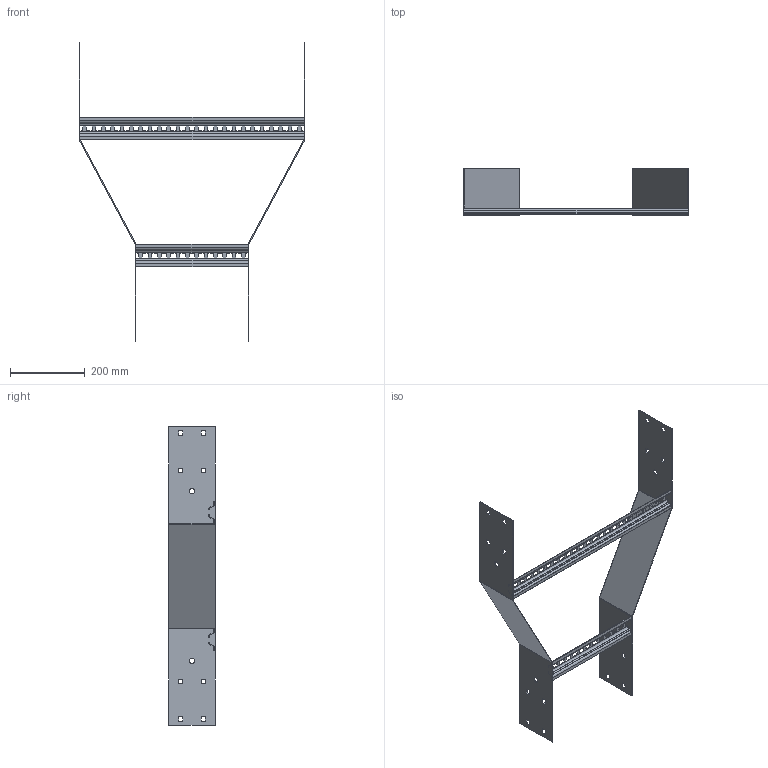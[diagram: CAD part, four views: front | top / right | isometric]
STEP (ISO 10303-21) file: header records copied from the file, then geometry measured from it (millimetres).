
FILE_DESCRIPTION (( 'STEP AP203' ), '1' );
FILE_NAME ('N3 SR 600300.STEP', '2022-09-19T05:42:08', ( '' ), ( '' ), 'SwSTEP 2.0', 'SolidWorks 2021', '' );
FILE_SCHEMA (( 'CONFIG_CONTROL_DESIGN' ));
Length unit declared in the file: millimetre
Products named in the file (4): Ladder Rung_Ladder Rung -  600mm; N3 Reducer side plate_SR300x600; Ladder Rung_Ladder Rung -  300mm; N3 SR 600300
Assembly tree (4 placements, depth 2):
  N3 SR 600300
    N3 Reducer side plate_SR300x600  x2
    Ladder Rung_Ladder Rung -  300mm
    Ladder Rung_Ladder Rung -  600mm
Bounding box: 604 x 124 x 800 mm (x, y, z)
Volume: 505659.7 mm3; surface area: 545862.7 mm2
Topology: 4 solids, 4 shells, 344 faces, 912 edges, 576 vertices
Faces by surface type: plane 312, cylinder 32
Entity records: 9254 total; most frequent: CARTESIAN_POINT 1533, ORIENTED_EDGE 1520, DIRECTION 1394, EDGE_CURVE 760, LINE 712, VECTOR 712, VERTEX_POINT 480, EDGE_LOOP 374
